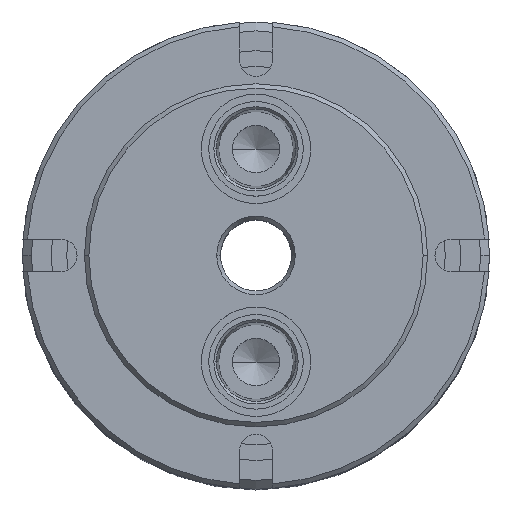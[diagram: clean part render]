
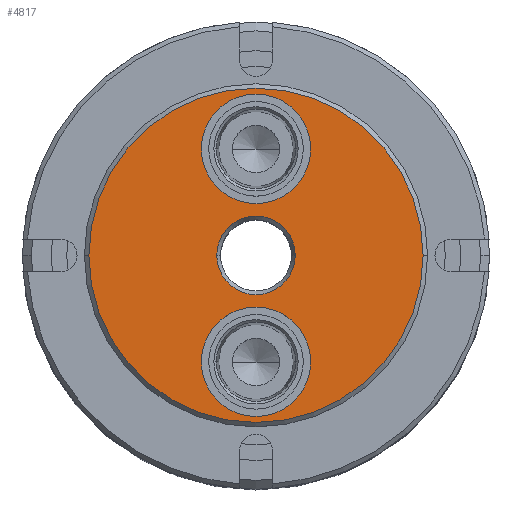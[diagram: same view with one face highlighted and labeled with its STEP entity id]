
A CAD part, top view. The second image highlights one B-rep face of the part: STEP entity #4817.
In plain terms, the highlighted planar face has unit normal (0, 0, 1).
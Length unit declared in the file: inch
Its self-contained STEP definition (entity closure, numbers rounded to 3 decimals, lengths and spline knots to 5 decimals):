
#223 = CARTESIAN_POINT ( 'NONE',  ( 0., 1.125, 0. ) ) ;
#224 = DIRECTION ( 'NONE',  ( 0., 0., 1. ) ) ;
#225 = DIRECTION ( 'NONE',  ( 1., 0., 0. ) ) ;
#378 = CARTESIAN_POINT ( 'NONE',  ( 0., -1.125, 0. ) ) ;
#379 = DIRECTION ( 'NONE',  ( 0., 0., 1. ) ) ;
#380 = DIRECTION ( 'NONE',  ( -1., 0., 0. ) ) ;
#405 = CARTESIAN_POINT ( 'NONE',  ( 0., -1.125, 0. ) ) ;
#406 = DIRECTION ( 'NONE',  ( 0., 0., 1. ) ) ;
#407 = DIRECTION ( 'NONE',  ( -1., 0., 0. ) ) ;
#410 = CARTESIAN_POINT ( 'NONE',  ( 0., 0., 0. ) ) ;
#411 = DIRECTION ( 'NONE',  ( 0., 0., 1. ) ) ;
#412 = DIRECTION ( 'NONE',  ( -1., 0., 0. ) ) ;
#1197 = AXIS2_PLACEMENT_3D ( 'NONE', #223, #224, #225 ) ;
#1212 = CIRCLE ( 'NONE', #1197, 0.578 ) ;
#1286 = EDGE_LOOP ( 'NONE', ( #2718, #2719 ) ) ;
#1309 = EDGE_LOOP ( 'NONE', ( #2739, #2733 ) ) ;
#1417 = PLANE ( 'NONE',  #6219 ) ;
#1422 = FACE_BOUND ( 'NONE', #1286, .T. ) ;
#1425 = FACE_BOUND ( 'NONE', #1982, .T. ) ;
#1427 = FACE_OUTER_BOUND ( 'NONE', #1826, .T. ) ;
#1430 = FACE_BOUND ( 'NONE', #1309, .T. ) ;
#1442 = CARTESIAN_POINT ( 'NONE',  ( 0., 0., 0. ) ) ;
#1443 = DIRECTION ( 'NONE',  ( 0., 0., -1. ) ) ;
#1444 = DIRECTION ( 'NONE',  ( -1., 0., 0. ) ) ;
#1543 = CARTESIAN_POINT ( 'NONE',  ( 0., 0., 0. ) ) ;
#1544 = DIRECTION ( 'NONE',  ( 0., 0., -1. ) ) ;
#1545 = DIRECTION ( 'NONE',  ( -1., 0., 0. ) ) ;
#1595 = CARTESIAN_POINT ( 'NONE',  ( 0.578, 1.125, 0. ) ) ;
#1614 = CARTESIAN_POINT ( 'NONE',  ( -0.578, 1.125, 0. ) ) ;
#1618 = CARTESIAN_POINT ( 'NONE',  ( 1.7655, 0., 0. ) ) ;
#1619 = CARTESIAN_POINT ( 'NONE',  ( -1.7655, 0., 0. ) ) ;
#1653 = CARTESIAN_POINT ( 'NONE',  ( -0.415, 0., 0. ) ) ;
#1658 = CARTESIAN_POINT ( 'NONE',  ( 0.415, 0., 0. ) ) ;
#1799 = VERTEX_POINT ( 'NONE', #5094 ) ;
#1806 = VERTEX_POINT ( 'NONE', #5101 ) ;
#1826 = EDGE_LOOP ( 'NONE', ( #1918, #2499 ) ) ;
#1918 = ORIENTED_EDGE ( 'NONE', *, *, #4684, .T. ) ;
#1930 = ORIENTED_EDGE ( 'NONE', *, *, #4675, .F. ) ;
#1982 = EDGE_LOOP ( 'NONE', ( #2514, #1930 ) ) ;
#2145 = CIRCLE ( 'NONE', #2394, 1.7655 ) ;
#2212 = AXIS2_PLACEMENT_3D ( 'NONE', #5603, #5604, #5605 ) ;
#2289 = AXIS2_PLACEMENT_3D ( 'NONE', #5548, #5549, #5550 ) ;
#2394 = AXIS2_PLACEMENT_3D ( 'NONE', #5355, #5356, #5357 ) ;
#2416 = CIRCLE ( 'NONE', #2289, 0.578 ) ;
#2499 = ORIENTED_EDGE ( 'NONE', *, *, #4306, .T. ) ;
#2514 = ORIENTED_EDGE ( 'NONE', *, *, #4683, .F. ) ;
#2572 = CIRCLE ( 'NONE', #2212, 0.415 ) ;
#2718 = ORIENTED_EDGE ( 'NONE', *, *, #4841, .T. ) ;
#2719 = ORIENTED_EDGE ( 'NONE', *, *, #4360, .T. ) ;
#2733 = ORIENTED_EDGE ( 'NONE', *, *, #4641, .F. ) ;
#2739 = ORIENTED_EDGE ( 'NONE', *, *, #4349, .F. ) ;
#4306 = EDGE_CURVE ( 'NONE', #4914, #4915, #2145, .T. ) ;
#4349 = EDGE_CURVE ( 'NONE', #4889, #4910, #2416, .T. ) ;
#4360 = EDGE_CURVE ( 'NONE', #4949, #4954, #2572, .T. ) ;
#4641 = EDGE_CURVE ( 'NONE', #4910, #4889, #1212, .T. ) ;
#4675 = EDGE_CURVE ( 'NONE', #1806, #1799, #6145, .T. ) ;
#4683 = EDGE_CURVE ( 'NONE', #1799, #1806, #6176, .T. ) ;
#4684 = EDGE_CURVE ( 'NONE', #4915, #4914, #6132, .T. ) ;
#4817 = ADVANCED_FACE ( 'NONE', ( #1422, #1425, #1430, #1427 ), #1417, .F. ) ;
#4841 = EDGE_CURVE ( 'NONE', #4954, #4949, #6193, .T. ) ;
#4889 = VERTEX_POINT ( 'NONE', #1595 ) ;
#4910 = VERTEX_POINT ( 'NONE', #1614 ) ;
#4914 = VERTEX_POINT ( 'NONE', #1618 ) ;
#4915 = VERTEX_POINT ( 'NONE', #1619 ) ;
#4949 = VERTEX_POINT ( 'NONE', #1653 ) ;
#4954 = VERTEX_POINT ( 'NONE', #1658 ) ;
#5094 = CARTESIAN_POINT ( 'NONE',  ( 0.578, -1.125, 0. ) ) ;
#5101 = CARTESIAN_POINT ( 'NONE',  ( -0.578, -1.125, 0. ) ) ;
#5355 = CARTESIAN_POINT ( 'NONE',  ( 0., 0., 0. ) ) ;
#5356 = DIRECTION ( 'NONE',  ( 0., 0., 1. ) ) ;
#5357 = DIRECTION ( 'NONE',  ( -1., 0., 0. ) ) ;
#5548 = CARTESIAN_POINT ( 'NONE',  ( 0., 1.125, 0. ) ) ;
#5549 = DIRECTION ( 'NONE',  ( 0., 0., 1. ) ) ;
#5550 = DIRECTION ( 'NONE',  ( 1., 0., 0. ) ) ;
#5603 = CARTESIAN_POINT ( 'NONE',  ( 0., 0., 0. ) ) ;
#5604 = DIRECTION ( 'NONE',  ( 0., 0., -1. ) ) ;
#5605 = DIRECTION ( 'NONE',  ( -1., 0., 0. ) ) ;
#5955 = AXIS2_PLACEMENT_3D ( 'NONE', #410, #411, #412 ) ;
#6047 = AXIS2_PLACEMENT_3D ( 'NONE', #1543, #1544, #1545 ) ;
#6111 = AXIS2_PLACEMENT_3D ( 'NONE', #405, #406, #407 ) ;
#6132 = CIRCLE ( 'NONE', #5955, 1.7655 ) ;
#6145 = CIRCLE ( 'NONE', #6151, 0.578 ) ;
#6151 = AXIS2_PLACEMENT_3D ( 'NONE', #378, #379, #380 ) ;
#6176 = CIRCLE ( 'NONE', #6111, 0.578 ) ;
#6193 = CIRCLE ( 'NONE', #6047, 0.415 ) ;
#6219 = AXIS2_PLACEMENT_3D ( 'NONE', #1442, #1443, #1444 ) ;
